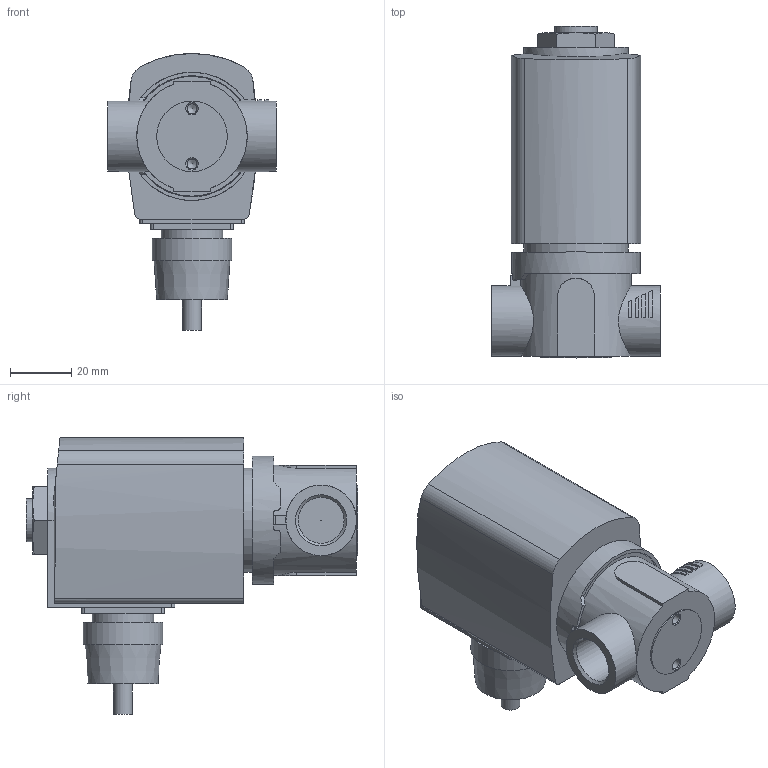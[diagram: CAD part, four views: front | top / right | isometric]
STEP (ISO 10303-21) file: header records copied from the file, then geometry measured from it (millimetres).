
FILE_DESCRIPTION(/* description */ ('STEP AP214'),/* implementation_level */ '2;1');
FILE_NAME(/* name */ '6027-A-6-PTFE___PEEK-MS-G_3_8-42-110___UC',/* time_stamp */ '2024-03-14T15:57:43+01:00',/* author */ ('License CC BY-ND 4.0'),/* organization */ ('CADENAS'),/* preprocessor_version */ 'ST-DEVELOPER v19.3',/* originating_system */ 'PARTsolutions',/* authorisation */ ' ');
FILE_SCHEMA (('AUTOMOTIVE_DESIGN {1 0 10303 214 3 1 1}'));
Length unit declared in the file: millimetre
Products named in the file (3): 6027-A-6-PTFE / PEEK-MS-G 3/8-42-110 / UC; AC10ex-42ATEXKabelPlan-Coil; V027-Gehaeuse G 3/8 1 1 MS G55 2 1
Assembly tree (2 placements, depth 2):
  6027-A-6-PTFE / PEEK-MS-G 3/8-42-110 / UC
    AC10ex-42ATEXKabelPlan-Coil
    V027-Gehaeuse G 3/8 1 1 MS G55 2 1
Bounding box: 55 x 108.2 x 90.3 mm (x, y, z)
Volume: 193796.9 mm3; surface area: 29803.8 mm2
Topology: 2 solids, 2 shells, 127 faces, 308 edges, 201 vertices
Faces by surface type: plane 71, cylinder 43, cone 13
Full cylindrical faces by diameter (mm): 0.2 x1, 3.242 x2, 6.2 x1, 14 x1, 14.95 x2, 20 x1, 23 x3, 26 x1, 34 x1, 36 x1, 39 x1, 39.5 x1, 41.8 x1
Entity records: 4054 total; most frequent: CARTESIAN_POINT 732, DIRECTION 625, ORIENTED_EDGE 550, EDGE_CURVE 275, AXIS2_PLACEMENT_3D 249, VERTEX_POINT 193, FACE_BOUND 170, EDGE_LOOP 168
